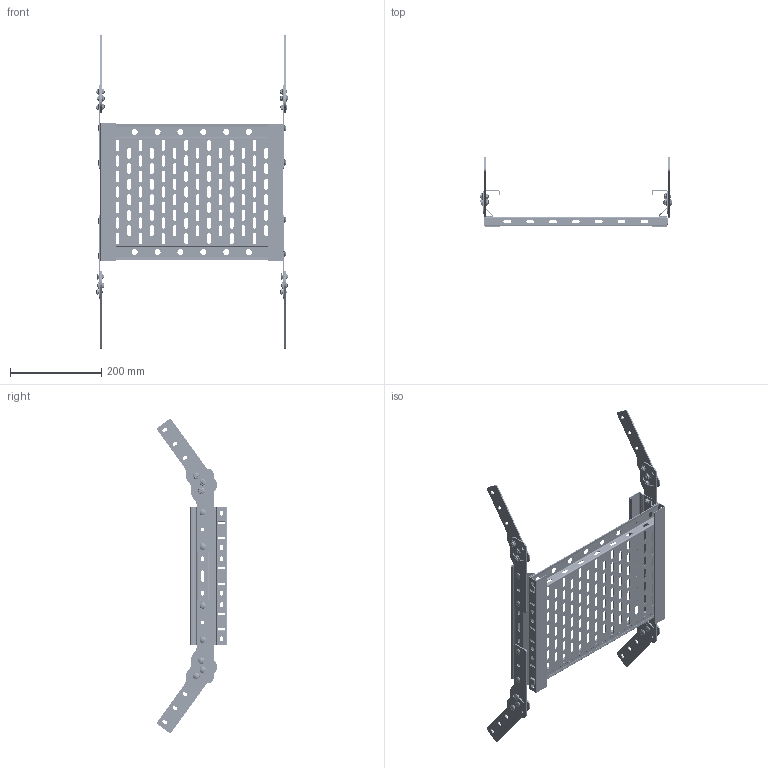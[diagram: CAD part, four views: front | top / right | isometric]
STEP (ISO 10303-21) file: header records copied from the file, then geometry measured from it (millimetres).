
FILE_DESCRIPTION (( 'STEP AP203' ), '1' );
FILE_NAME ('óãîë âåðòèêàëüíûé ëèñòîâîé Í80.STEP', '2015-05-26T14:34:06', ( '' ), ( '' ), 'SwSTEP 2.0', 'SolidWorks 2014', '' );
FILE_SCHEMA (( 'CONFIG_CONTROL_DESIGN' ));
Length unit declared in the file: millimetre
Products named in the file (11): ñîåäåíèòåëè øàðíèðíûå 80; Çåðêàëüíî îòðàçèòü80õ2,5; Çåðêàëüíî îòðàçèòüñîåäåíèòåëè øàðíèðíûå 80; 鋋翲歑鍙 34mm H80_300; Çåðêàëüíî îòðàçèòüñîåäåíèòåëè øàðíèðíûå 801; Piastrella 300....new_400 1,0mm; óãîë âåðòèêàëüíûé ëèñòîâîé Í80; 80õ2,5; Hex Flange Nut_AM_B18.2.2.4M - Hex flange nut, M6 x 1 --N; Square Neck Bolt 02_ISO_ISO 8678-M6x12-7-S; áîëò+ãàéêà ì8(3.0mm)
Assembly tree (41 placements, depth 4):
  óãîë âåðòèêàëüíûé ëèñòîâîé Í80
    鋋翲歑鍙 34mm H80_300  x2
    Piastrella 300....new_400 1,0mm
    ñîåäåíèòåëè øàðíèðíûå 80  x2
      80õ2,5
      áîëò+ãàéêà ì8(3.0mm)
        Hex Flange Nut_AM_B18.2.2.4M - Hex flange nut, M6 x 1 --N
        Square Neck Bolt 02_ISO_ISO 8678-M6x12-7-S
    Çåðêàëüíî îòðàçèòüñîåäåíèòåëè øàðíèðíûå 80
      Çåðêàëüíî îòðàçèòü80õ2,5  x2
      áîëò+ãàéêà ì8(3.0mm)  x3
        Hex Flange Nut_AM_B18.2.2.4M - Hex flange nut, M6 x 1 --N
        Square Neck Bolt 02_ISO_ISO 8678-M6x12-7-S
    Çåðêàëüíî îòðàçèòüñîåäåíèòåëè øàðíèðíûå 801
      Çåðêàëüíî îòðàçèòü80õ2,5  x2
      áîëò+ãàéêà ì8(3.0mm)  x3
        Hex Flange Nut_AM_B18.2.2.4M - Hex flange nut, M6 x 1 --N
        Square Neck Bolt 02_ISO_ISO 8678-M6x12-7-S
    áîëò+ãàéêà ì8(3.0mm)  x17
      Hex Flange Nut_AM_B18.2.2.4M - Hex flange nut, M6 x 1 --N
      Square Neck Bolt 02_ISO_ISO 8678-M6x12-7-S
Bounding box: 421.65 x 152.51 x 686.26 mm (x, y, z)
Volume: 450681.5 mm3; surface area: 618748.7 mm2
Topology: 69 solids, 69 shells, 4650 faces, 11829 edges, 7132 vertices
Faces by surface type: cone 1363, cylinder 1334, plane 1136, bspline 498, torus 261, sphere 58
Entity records: 37184 total; most frequent: CARTESIAN_POINT 7064, DIRECTION 5839, ORIENTED_EDGE 5834, EDGE_CURVE 2917, AXIS2_PLACEMENT_3D 2017, VERTEX_POINT 1872, LINE 1805, VECTOR 1805
